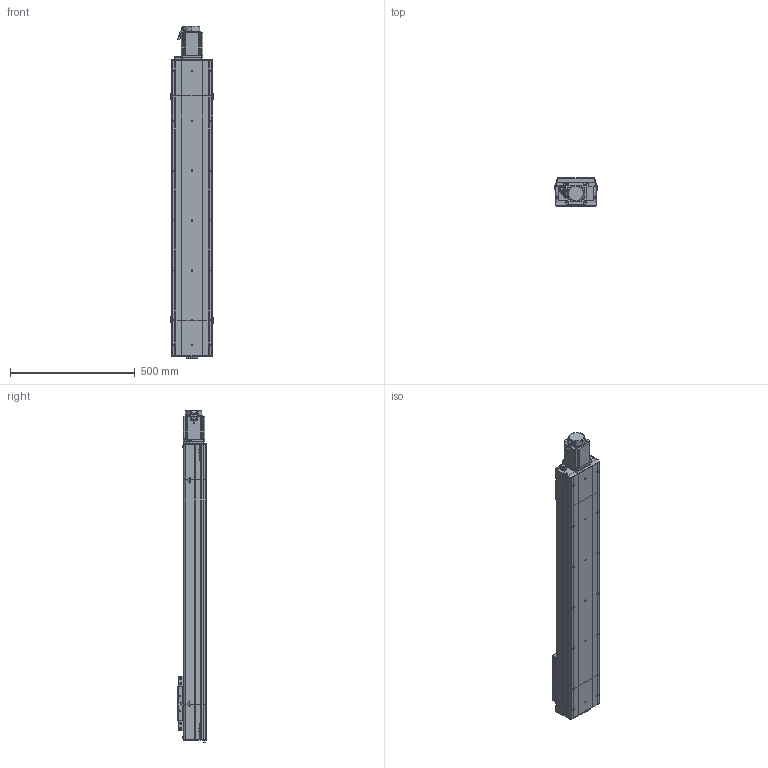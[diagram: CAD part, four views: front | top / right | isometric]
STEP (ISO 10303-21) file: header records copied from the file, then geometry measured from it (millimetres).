
FILE_DESCRIPTION (( 'STEP AP214' ), '1' );
FILE_NAME ('D17 CSH MD S900.STEP', '2010-06-29T14:21:04', ( 'Christophe Gaillard' ), ( 'SGA' ), 'SwSTEP 2.0', 'SolidWorks 2010', '' );
FILE_SCHEMA (( 'AUTOMOTIVE_DESIGN' ));
Length unit declared in the file: millimetre
Products named in the file (25): corps 90BLDC100A-640; Plaque de bout D17_Default; codeur 90BLDC100-640; Corp D17 S900_Default; Corp L900_Default; Conecteur_Default; Tail D17+100_Default; couvercle D17-900_Default; Conecteur2_Default; Corp Tail D17+100_Default; glissiere_Default; vis M5 L15_Default; support chariot D17_Default; chariot D17_Default; Chariot D17_Default; couvercle D17_Default; plaque de serrage D17_Default; Head D17 MD_Default; D17 CSH MD S900; Corp Head D17 MD_Default; couvercle D17 head_Default; Plaque de bout D17 head_Default; Moteur motionking 90BLDC100A-640; plaque de serrage D17 head_Default; avant 90BLDC100A-640
Assembly tree (44 placements, depth 4):
  D17 CSH MD S900
    Tail D17+100_Default
      Plaque de bout D17_Default
      Corp Tail D17+100_Default
      vis M5 L15_Default  x6
      couvercle D17_Default
      plaque de serrage D17_Default
    Corp D17 S900_Default
      couvercle D17-900_Default
      Corp L900_Default
    Chariot D17_Default
      chariot D17_Default
      vis M5 L15_Default  x8
      support chariot D17_Default
      glissiere_Default
    Head D17 MD_Default
      vis M5 L15_Default  x7
      Moteur motionking 90BLDC100A-640
        corps 90BLDC100A-640
        codeur 90BLDC100-640
        Conecteur_Default
        avant 90BLDC100A-640
        Conecteur2_Default
      plaque de serrage D17 head_Default
      couvercle D17 head_Default
      Plaque de bout D17 head_Default
      Corp Head D17 MD_Default
Bounding box: 172 x 114 x 1333 mm (x, y, z)
Volume: 8658059.7 mm3; surface area: 1535926.3 mm2
Topology: 81 solids, 81 shells, 2984 faces, 7574 edges, 4968 vertices
Faces by surface type: plane 1807, bspline 710, cylinder 372, torus 53, cone 42
Entity records: 143997 total; most frequent: CARTESIAN_POINT 78468, ORIENTED_EDGE 13144, DIRECTION 9364, EDGE_CURVE 6572, VECTOR 4468, LINE 4468, VERTEX_POINT 4368, EDGE_LOOP 2764
